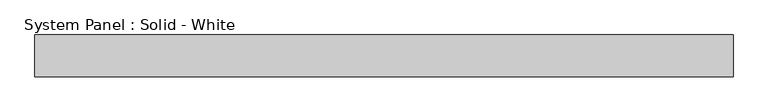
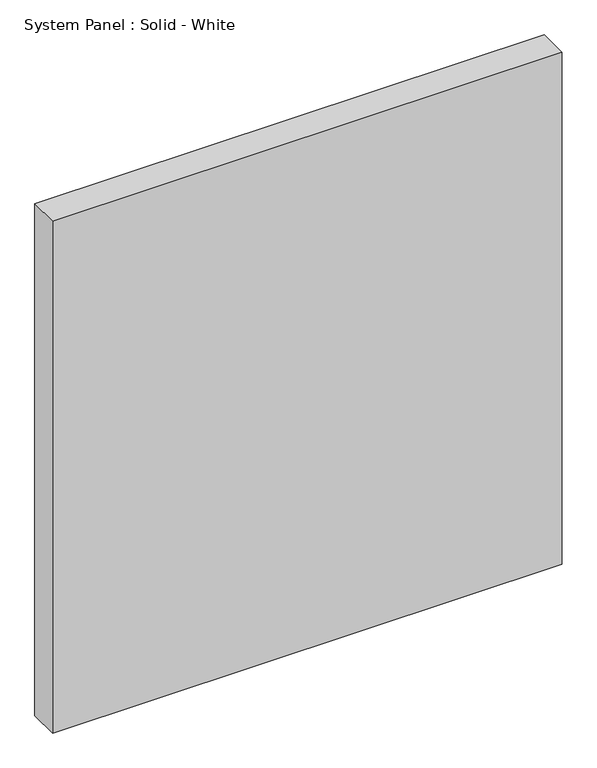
"""IFC4 building model written with IfcOpenShell, lengths in millimetres: plate geometry, System Panel : Solid - White."""

from ifc_helpers import new_model, si_unit, origin, origin_with_axes, place, context, project, spatial, polyline, outline, extrude, source, transform, mapped, element, save


def system_panel_solid_white_47daa927(model_context):
    return source(origin(), model_context, "Body", "SweptSolid", [
        extrude(outline(polyline([(529.544643, -19.05), (-529.544643, -19.05), (-529.544643, 44.45), (529.544643, 44.45), (529.544643, -19.05)])), origin_with_axes(), (0.0, 0.0, 1.0), 1123.95),
    ])


if __name__ == "__main__":
    model = new_model("IFC4")
    model_context = context("Model", 3, world=origin())
    ifc_project = project(units=[si_unit("LENGTHUNIT", "METRE", prefix="MILLI")], contexts=[model_context])
    site = spatial("IfcSite", under=ifc_project)
    building = spatial("IfcBuilding", under=site)
    placement = place(None, origin())
    system_panel_solid_white_shape = system_panel_solid_white_47daa927(model_context)
    element("IfcPlate", 1, ObjectType="System Panel : Solid - White", at=placement, inside=building, context=model_context, shape_type="MappedRepresentation", body=[
        mapped(system_panel_solid_white_shape, transform((0.0, 0.0, 0.0), x_axis=(1.0, 0.0, 0.0), y_axis=(0.0, 1.0, 0.0), z_axis=(0.0, 0.0, 1.0))),
    ])
    save(model, "model.ifc")
